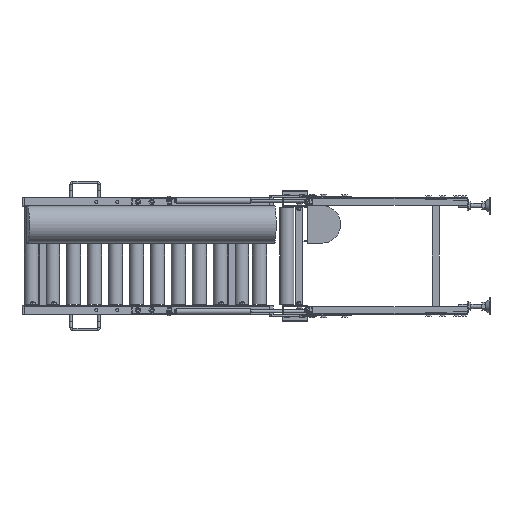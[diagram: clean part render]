
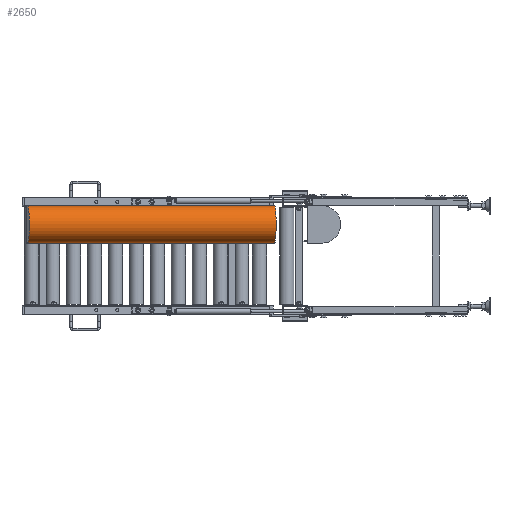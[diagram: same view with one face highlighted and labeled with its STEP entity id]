
A CAD part, left-side view. The second image highlights one B-rep face of the part: STEP entity #2650.
In plain terms, the highlighted cylindrical face has radius 66.89 mm (diameter 133.78 mm), a partial arc.
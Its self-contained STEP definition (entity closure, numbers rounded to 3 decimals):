
#2650=ADVANCED_FACE('',(#20387),#20386,.T.);
#20386=CYLINDRICAL_SURFACE('',#39070,66.89);
#20387=FACE_OUTER_BOUND('',#39071,.T.);
#39067=CARTESIAN_POINT('',(-63.444,-158.438,112.61));
#39068=DIRECTION('',(0.087,-0.996,0.));
#39069=DIRECTION('',(0.,0.,-1.));
#39070=AXIS2_PLACEMENT_3D('',#39067,#39068,#39069);
#39071=EDGE_LOOP('',(#53093,#53094,#53095,#53096));
#53093=ORIENTED_EDGE('',*,*,#62252,.F.);
#53094=ORIENTED_EDGE('',*,*,#62253,.T.);
#53095=ORIENTED_EDGE('',*,*,#62233,.T.);
#53096=ORIENTED_EDGE('',*,*,#62251,.F.);
#62233=EDGE_CURVE('',#93250,#93264,#93271,.T.);
#62251=EDGE_CURVE('',#93386,#93264,#93393,.T.);
#62252=EDGE_CURVE('',#93399,#93386,#93400,.T.);
#62253=EDGE_CURVE('',#93399,#93250,#93406,.T.);
#93250=VERTEX_POINT('',#126159);
#93264=VERTEX_POINT('',#126167);
#93271=CIRCLE('',#126174,66.89);
#93386=VERTEX_POINT('',#126236);
#93393=LINE('',#126240,#126241);
#93399=VERTEX_POINT('',#126243);
#93400=CIRCLE('',#126247,66.89);
#93406=LINE('',#126248,#126249);
#126159=CARTESIAN_POINT('',(-155.735,897.187,179.5));
#126167=CARTESIAN_POINT('',(-155.735,897.187,45.72));
#126171=CARTESIAN_POINT('',(-155.735,897.187,112.61));
#126172=DIRECTION('',(0.087,-0.996,0.));
#126173=DIRECTION('',(0.,0.,-1.));
#126174=AXIS2_PLACEMENT_3D('',#126171,#126172,#126173);
#126236=CARTESIAN_POINT('',(-78.917,18.539,45.72));
#126240=CARTESIAN_POINT('',(-78.917,18.539,45.72));
#126241=VECTOR('',#126242,882.);
#126242=DIRECTION('',(-0.087,0.996,0.));
#126243=CARTESIAN_POINT('',(-78.917,18.539,179.5));
#126244=CARTESIAN_POINT('',(-78.917,18.539,112.61));
#126245=DIRECTION('',(0.087,-0.996,0.));
#126246=DIRECTION('',(0.,0.,1.));
#126247=AXIS2_PLACEMENT_3D('',#126244,#126245,#126246);
#126248=CARTESIAN_POINT('',(-78.917,18.539,179.5));
#126249=VECTOR('',#126250,882.);
#126250=DIRECTION('',(-0.087,0.996,0.));
